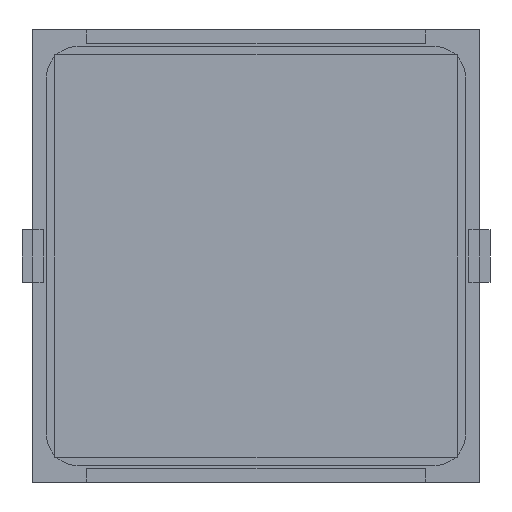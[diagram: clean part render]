
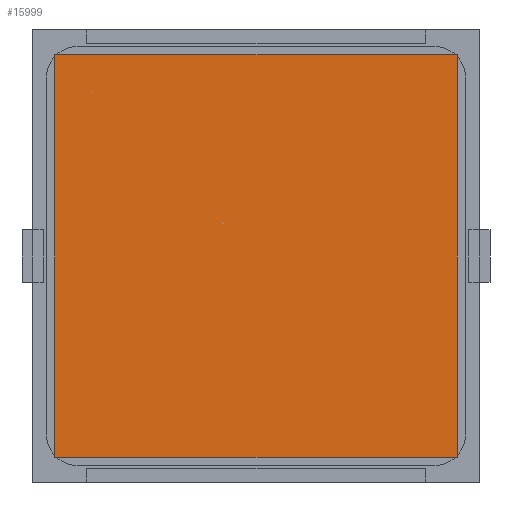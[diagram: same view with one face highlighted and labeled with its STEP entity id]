
A CAD part, front view. The second image highlights one B-rep face of the part: STEP entity #15999.
In plain terms, the highlighted planar face has unit normal (0, -1, 0).
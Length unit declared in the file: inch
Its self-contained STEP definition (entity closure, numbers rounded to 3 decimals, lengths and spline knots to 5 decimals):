
#71 = AXIS2_PLACEMENT_3D ( 'NONE', #16941, #3348, #7719 ) ;
#1369 = EDGE_CURVE ( 'NONE', #14219, #18457, #12634, .T. ) ;
#1739 = ORIENTED_EDGE ( 'NONE', *, *, #1369, .T. ) ;
#1773 = ORIENTED_EDGE ( 'NONE', *, *, #16046, .T. ) ;
#3260 = FACE_OUTER_BOUND ( 'NONE', #9399, .T. ) ;
#3348 = DIRECTION ( 'NONE',  ( 0., -1., 0. ) ) ;
#3607 = DIRECTION ( 'NONE',  ( 1., 0., 0. ) ) ;
#3741 = ORIENTED_EDGE ( 'NONE', *, *, #11773, .T. ) ;
#4374 = CARTESIAN_POINT ( 'NONE',  ( -0.74803, -0.005, 0.74803 ) ) ;
#6941 = LINE ( 'NONE', #12831, #17119 ) ;
#7299 = VECTOR ( 'NONE', #10937, 39.37008 ) ;
#7719 = DIRECTION ( 'NONE',  ( 0., 0., 1. ) ) ;
#8209 = DIRECTION ( 'NONE',  ( 0., 0., 1. ) ) ;
#8540 = ORIENTED_EDGE ( 'NONE', *, *, #16536, .T. ) ;
#9399 = EDGE_LOOP ( 'NONE', ( #1773, #3741, #8540, #1739 ) ) ;
#10937 = DIRECTION ( 'NONE',  ( -1., 0., 0. ) ) ;
#11312 = LINE ( 'NONE', #15955, #17732 ) ;
#11348 = CARTESIAN_POINT ( 'NONE',  ( -0.74803, -0.005, -0.74803 ) ) ;
#11469 = VERTEX_POINT ( 'NONE', #4374 ) ;
#11773 = EDGE_CURVE ( 'NONE', #17419, #11469, #18215, .T. ) ;
#12028 = VECTOR ( 'NONE', #3607, 39.37008 ) ;
#12634 = LINE ( 'NONE', #16902, #12028 ) ;
#12831 = CARTESIAN_POINT ( 'NONE',  ( -0.74803, -0.005, -0.74803 ) ) ;
#13770 = CARTESIAN_POINT ( 'NONE',  ( 0.74803, -0.005, -0.74803 ) ) ;
#14219 = VERTEX_POINT ( 'NONE', #11348 ) ;
#14935 = CARTESIAN_POINT ( 'NONE',  ( 0.74803, -0.005, 0.74803 ) ) ;
#15500 = CARTESIAN_POINT ( 'NONE',  ( 0.74803, -0.005, 0.74803 ) ) ;
#15955 = CARTESIAN_POINT ( 'NONE',  ( 0.74803, -0.005, -0.74803 ) ) ;
#15999 = ADVANCED_FACE ( 'NONE', ( #3260 ), #18393, .T. ) ;
#16046 = EDGE_CURVE ( 'NONE', #18457, #17419, #11312, .T. ) ;
#16536 = EDGE_CURVE ( 'NONE', #11469, #14219, #6941, .T. ) ;
#16902 = CARTESIAN_POINT ( 'NONE',  ( 0.74803, -0.005, -0.74803 ) ) ;
#16941 = CARTESIAN_POINT ( 'NONE',  ( 0.74803, -0.005, 0.74803 ) ) ;
#17119 = VECTOR ( 'NONE', #18766, 39.37008 ) ;
#17419 = VERTEX_POINT ( 'NONE', #15500 ) ;
#17732 = VECTOR ( 'NONE', #8209, 39.37008 ) ;
#18215 = LINE ( 'NONE', #14935, #7299 ) ;
#18393 = PLANE ( 'NONE',  #71 ) ;
#18457 = VERTEX_POINT ( 'NONE', #13770 ) ;
#18766 = DIRECTION ( 'NONE',  ( 0., 0., -1. ) ) ;
